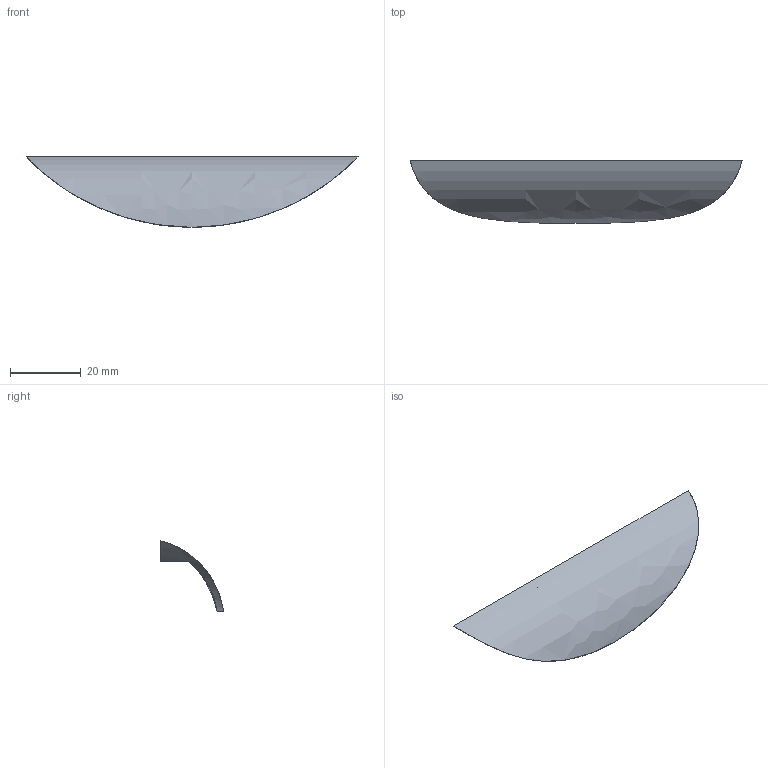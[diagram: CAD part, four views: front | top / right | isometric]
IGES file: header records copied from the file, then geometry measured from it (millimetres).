
Start section: Data from Parasolid IGES Translator 15.0.47, Copyright(c) 2006 Siemens P LM Software. All Rights Reserved.
Global section: file name: 9070121.igs; native system:  By UGS Corp.; preprocessor: XPlus GENERIC/IGES 3.0; author: Noname; organization: Noname; date: 20140122.144819; units: millimetre
Bounding box: 94 x 17.79 x 20 mm (x, y, z)
Surface area: 4475.6 mm2 (no closed solid volume)
Topology: 0 solids, 0 shells, 10 faces, 36 edges, 34 vertices
Faces by surface type: revolution 6, extrusion 4
